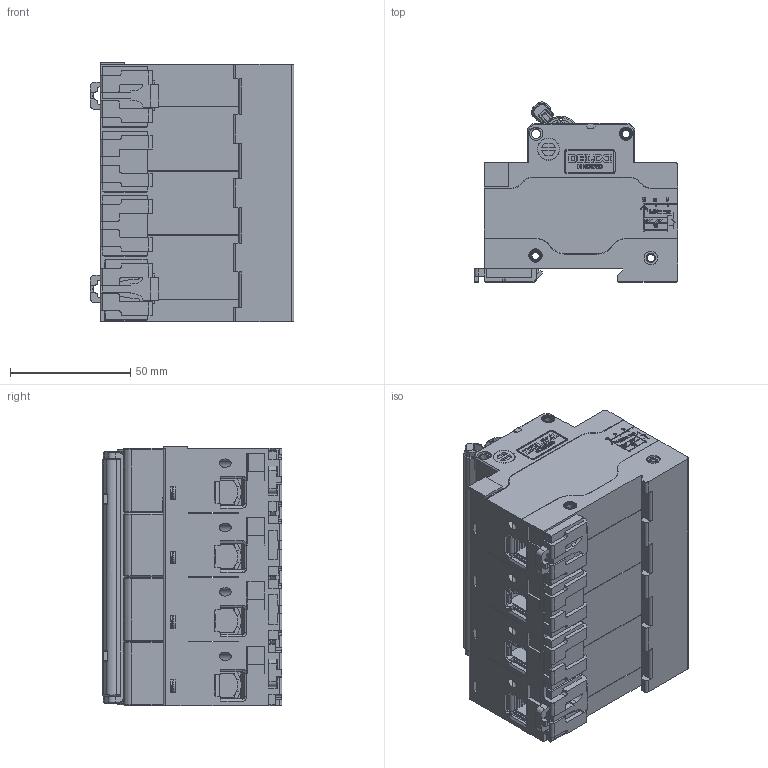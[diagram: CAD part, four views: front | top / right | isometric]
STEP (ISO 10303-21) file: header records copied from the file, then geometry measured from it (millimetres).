
FILE_DESCRIPTION((''),'2;1');
FILE_NAME('2258012900_ASM_SW0001','2019-07-17T',('xiao.wang'),(''),'PRO/ENGINEER BY PARAMETRIC TECHNOLOGY CORPORATION, 2015440','PRO/ENGINEER BY PARAMETRIC TECHNOLOGY CORPORATION, 2015440','');
FILE_SCHEMA(('CONFIG_CONTROL_DESIGN'));
Products named in the file (1): 2258012900_ASM_SW0001
Bounding box: 84.9 x 74.91 x 108.2 mm (x, y, z)
Volume: 415767.1 mm3; surface area: 143199.7 mm2
Topology: 3 solids, 4 shells, 6302 faces, 18039 edges, 11714 vertices
Faces by surface type: plane 4518, cylinder 1139, extrusion 354, cone 144, torus 83, bspline 40, sphere 24
Entity records: 210152 total; most frequent: CARTESIAN_POINT 45003, ORIENTED_EDGE 36030, DIRECTION 32051, EDGE_CURVE 18015, VECTOR 14317, LINE 13963, VERTEX_POINT 11714, AXIS2_PLACEMENT_3D 8867
